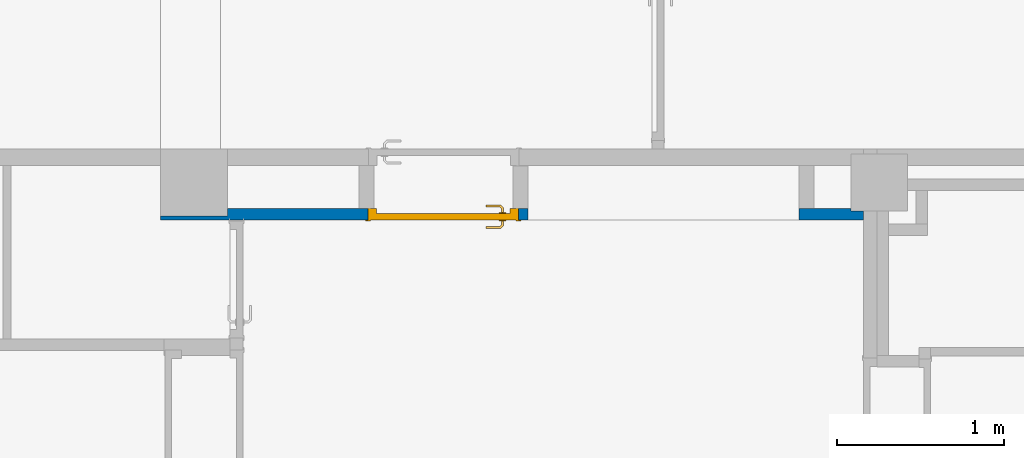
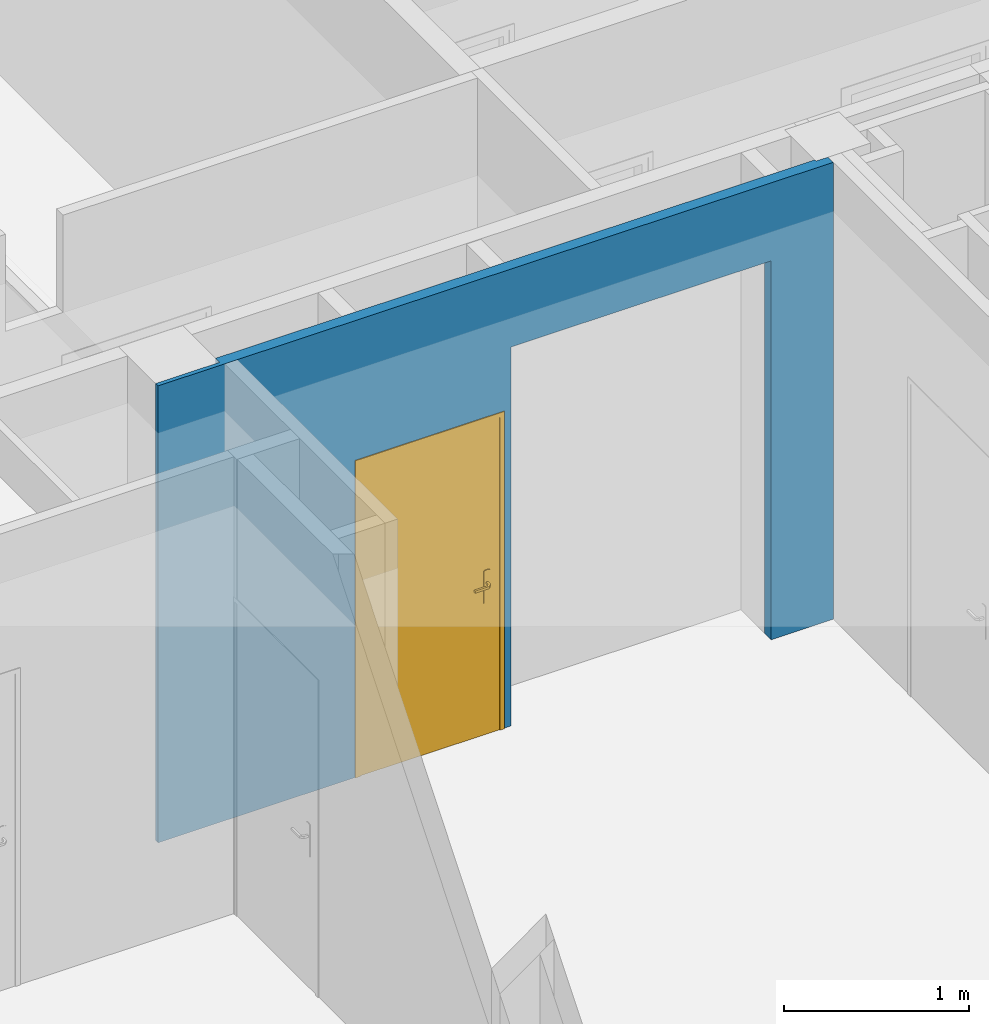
# One storey, part 62 of 97: 1 door, 1 wall, 1 opening.
"""IFC4 building model written with IfcOpenShell, lengths in metres."""

import ifcopenshell
import ifcopenshell.guid

model = None  # the IFC model being written
_history = None  # IfcOwnerHistory: only IFC2X3 demands one
_inside = {}  # id of a spatial element -> (the spatial element, [elements in it])
_under = {}  # id of a project, library or spatial element -> (it, [spatial elements below it])
_declared = {}  # id of a project -> (the project, [libraries it declares])
_typed = {}  # id of a type object -> (the type object, [elements of that type])
_made_of = {}  # id of a material, layer set ... -> (it, [elements and type objects made of it])


def new_model(schema):
    """Start an empty IFC model of exactly this schema.

    Asked for "IFC4X3", IfcOpenShell would pick the latest addendum, in which some entities
    have other attributes; the version numbers below select the first issue.
    IFC2X3 requires an IfcOwnerHistory on every rooted entity: one is made here for all.
    """
    global model, _history
    if schema == "IFC4X3":
        model = ifcopenshell.file(schema_version=(4, 3, 0, 0))
    else:
        model = ifcopenshell.file(schema=schema)
    _inside.clear()
    _under.clear()
    _declared.clear()
    _typed.clear()
    _made_of.clear()
    _history = None
    if model.schema == "IFC2X3":
        org = make("IfcOrganization", Name="unknown")
        user = make(
            "IfcPersonAndOrganization",
            ThePerson=make("IfcPerson", FamilyName="unknown"),
            TheOrganization=org,
        )
        app = make(
            "IfcApplication",
            ApplicationDeveloper=org,
            Version="unknown",
            ApplicationFullName="unknown",
            ApplicationIdentifier="unknown",
        )
        _history = make(
            "IfcOwnerHistory",
            OwningUser=user,
            OwningApplication=app,
            ChangeAction="ADDED",
            CreationDate=0,
        )
    return model


def make(cls, **values):
    """One entity of the class cls with the attributes given. An attribute that is None is left unset."""
    return model.create_entity(
        cls, **{name: value for name, value in values.items() if value is not None}
    )


def entity(cls, *values):
    """Any entity or typed value of the class cls, its attributes in the order of the schema. None: left unset."""
    e = model.create_entity(cls)
    for i, value in enumerate(values):
        if value is not None:
            e[i] = value
    return e


def rooted(cls, **values):
    """An entity with a GlobalId (a new one), such as an element, a storey or a relation."""
    return make(cls, GlobalId=ifcopenshell.guid.new(), OwnerHistory=_history, **values)


def si_unit(unit_type, name, prefix=None):
    """IfcSIUnit, for example si_unit("LENGTHUNIT", "METRE", prefix="MILLI")."""
    return make("IfcSIUnit", UnitType=unit_type, Prefix=prefix, Name=name)


def converted_unit(unit_type, name, factor, base, dimensions=None, offset=None):
    """IfcConversionBasedUnit, such as the inch: factor (a typed value) times the base unit."""
    return make(
        "IfcConversionBasedUnit"
        if offset is None
        else "IfcConversionBasedUnitWithOffset",
        ConversionOffset=offset,
        Dimensions=None
        if dimensions is None
        else entity("IfcDimensionalExponents", *dimensions),
        UnitType=unit_type,
        Name=name,
        ConversionFactor=make(
            "IfcMeasureWithUnit", ValueComponent=factor, UnitComponent=base
        ),
    )


def derived_unit(unit_type, elements):
    """IfcDerivedUnit: a product of units, each with its exponent."""
    return make(
        "IfcDerivedUnit",
        Elements=[
            make("IfcDerivedUnitElement", Unit=unit, Exponent=power)
            for unit, power in elements
        ],
        UnitType=unit_type,
    )


def assignment(units):
    """IfcUnitAssignment: the units of a project."""
    return None if units is None else make("IfcUnitAssignment", Units=units)


def point(xyz):
    """IfcCartesianPoint."""
    return None if xyz is None else make("IfcCartesianPoint", Coordinates=xyz)


def direction(xyz):
    """IfcDirection."""
    return None if xyz is None else make("IfcDirection", DirectionRatios=xyz)


def frame(location, z_axis=None, x_axis=None):
    """IfcAxis2Placement3D, a coordinate frame: its origin and axes. An axis left out is left unset."""
    return make(
        "IfcAxis2Placement3D",
        Location=point(location),
        Axis=direction(z_axis),
        RefDirection=direction(x_axis),
    )


def origin():
    """The frame at (0, 0, 0) with its axes left unset."""
    return frame((0.0, 0.0, 0.0))


def place(relative_to, where):
    """IfcLocalPlacement: puts the frame where relative to a parent placement (None: the world)."""
    return make(
        "IfcLocalPlacement", PlacementRelTo=relative_to, RelativePlacement=where
    )


def context(
    kind, dimensions, precision=None, world=None, true_north=None, identifier=None
):
    """IfcGeometricRepresentationContext, for example the 3D "Model" context."""
    return make(
        "IfcGeometricRepresentationContext",
        ContextIdentifier=identifier,
        ContextType=kind,
        CoordinateSpaceDimension=dimensions,
        Precision=precision,
        WorldCoordinateSystem=world,
        TrueNorth=true_north,
    )


def subcontext(parent, identifier, kind, view, scale=None):
    """IfcGeometricRepresentationSubContext, for example "Body" below "Model"."""
    return make(
        "IfcGeometricRepresentationSubContext",
        ContextIdentifier=identifier,
        ContextType=kind,
        ParentContext=parent,
        TargetScale=scale,
        TargetView=view,
    )


def project(units=None, contexts=None):
    """IfcProject with its units and contexts."""
    return rooted(
        "IfcProject",
        Name="project",
        RepresentationContexts=contexts,
        UnitsInContext=assignment(units),
    )


def spatial(cls, under=None, at=None, **own):
    """A site, building, storey or space (cls), placed at a placement, below another one or the project."""
    s = rooted(cls, ObjectPlacement=at, **own)
    if under is not None:
        _under.setdefault(under.id(), (under, []))[1].append(s)
    return s


def point_list(points):
    """IfcCartesianPointList2D or 3D."""
    cls = (
        "IfcCartesianPointList2D" if len(points[0]) == 2 else "IfcCartesianPointList3D"
    )
    return make(cls, CoordList=points)


def indexed_curve(points, segments=None, self_intersect=None):
    """IfcIndexedPolyCurve: lines and arcs through numbered points (the first is 1)."""
    return make(
        "IfcIndexedPolyCurve",
        Points=point_list(points),
        Segments=segments,
        SelfIntersect=self_intersect,
    )


def outline(outer, holes=None, kind="AREA"):
    """IfcArbitraryClosedProfileDef: a profile drawn as a closed curve; with holes, ...WithVoids."""
    if holes is None:
        return make("IfcArbitraryClosedProfileDef", ProfileType=kind, OuterCurve=outer)
    return make(
        "IfcArbitraryProfileDefWithVoids",
        ProfileType=kind,
        OuterCurve=outer,
        InnerCurves=holes,
    )


def extrude(swept, where, along, depth):
    """IfcExtrudedAreaSolid: the profile swept, set in the frame where, extruded along a direction by depth."""
    return make(
        "IfcExtrudedAreaSolid",
        SweptArea=swept,
        Position=where,
        ExtrudedDirection=direction(along),
        Depth=depth,
    )


def polygons(points, faces, closed=None, point_numbers=None):
    """IfcPolygonalFaceSet: a face is its outer loop, then its inner loops; points numbered from 1."""
    made = []
    for loops in faces:
        if len(loops) == 1:
            made.append(make("IfcIndexedPolygonalFace", CoordIndex=loops[0]))
        else:
            made.append(
                make(
                    "IfcIndexedPolygonalFaceWithVoids",
                    CoordIndex=loops[0],
                    InnerCoordIndices=loops[1:],
                )
            )
    return make(
        "IfcPolygonalFaceSet",
        Coordinates=point_list(points),
        Closed=closed,
        Faces=made,
        PnIndex=point_numbers,
    )


def shape(context_of_items, identifier, shape_type, items):
    """IfcShapeRepresentation: the items that make up one representation, for example the "Body"."""
    return make(
        "IfcShapeRepresentation",
        ContextOfItems=context_of_items,
        RepresentationIdentifier=identifier,
        RepresentationType=shape_type,
        Items=items,
    )


def source(mapping_origin, context_of_items, identifier, shape_type, items):
    """IfcRepresentationMap: a shape defined once, which mapped items show again and again."""
    return make(
        "IfcRepresentationMap",
        MappingOrigin=mapping_origin,
        MappedRepresentation=shape(context_of_items, identifier, shape_type, items),
    )


def transform(
    local_origin,
    x_axis=None,
    y_axis=None,
    z_axis=None,
    scale=None,
    scale2=None,
    scale3=None,
    uniform=True,
):
    """IfcCartesianTransformationOperator3D, or its non-uniform kind. x_axis, y_axis, z_axis: its Axis1, 2, 3."""
    if uniform:
        return make(
            "IfcCartesianTransformationOperator3D",
            Axis1=direction(x_axis),
            Axis2=direction(y_axis),
            LocalOrigin=point(local_origin),
            Scale=scale,
            Axis3=direction(z_axis),
        )
    return make(
        "IfcCartesianTransformationOperator3DnonUniform",
        Axis1=direction(x_axis),
        Axis2=direction(y_axis),
        LocalOrigin=point(local_origin),
        Scale=scale,
        Axis3=direction(z_axis),
        Scale2=scale2,
        Scale3=scale3,
    )


def mapped(mapping_source, mapping_target):
    """IfcMappedItem: shows the shape of a source again, moved by a transform."""
    return make(
        "IfcMappedItem", MappingSource=mapping_source, MappingTarget=mapping_target
    )


def material(Name=None, Category=None):
    """IfcMaterial."""
    return make("IfcMaterial", Name=Name, Category=Category)


def material_list(materials):
    """IfcMaterialList."""
    return make("IfcMaterialList", Materials=materials)


def layer(
    of_material, thickness, ventilated=None, Name=None, Category=None, Priority=None
):
    """IfcMaterialLayer: one layer of a wall or slab, of a material (None: an air gap)."""
    return make(
        "IfcMaterialLayer",
        Material=of_material,
        LayerThickness=thickness,
        IsVentilated=ventilated,
        Name=Name,
        Category=Category,
        Priority=Priority,
    )


def layer_set(layers, Name=None):
    """IfcMaterialLayerSet."""
    return make("IfcMaterialLayerSet", MaterialLayers=layers, LayerSetName=Name)


def constituent(of_material, Name=None, Category=None, fraction=None):
    """IfcMaterialConstituent: one of the materials an element consists of."""
    return make(
        "IfcMaterialConstituent",
        Name=Name,
        Material=of_material,
        Fraction=fraction,
        Category=Category,
    )


def constituent_set(constituents=None, Name=None):
    """IfcMaterialConstituentSet."""
    return make(
        "IfcMaterialConstituentSet", Name=Name, MaterialConstituents=constituents
    )


def made_of(thing, what):
    """Note that an element or type object is made of a material, layer set ...; save() writes the relation."""
    if what is not None:
        _made_of.setdefault(what.id(), (what, []))[1].append(thing)
    return thing


def type_object(cls, material=None, **own):
    """A type object (cls), such as IfcWallType, which elements share."""
    return made_of(rooted(cls, **own), material)


def type_shapes(of_type, sources):
    """Give a type object the sources (RepresentationMaps) that its elements show as mapped items."""
    of_type.RepresentationMaps = sources


def element(
    cls,
    number,
    at=None,
    inside=None,
    cuts=None,
    type_object=None,
    material=None,
    context=None,
    identifier="Body",
    shape_type=None,
    held_by="IfcProductDefinitionShape",
    body=None,
    shapes=None,
    **own,
):
    """One element of the class cls, such as IfcWall. Its Tag is "e" and its number.

    at: its placement. inside: the storey or other place that contains it. cuts: it is an
    opening in that element (IfcRelVoidsElement). A single representation is given by context,
    identifier, shape_type and body (its items); several are given by shapes. held_by: the class
    of the entity that holds the representations. save() writes the other relations.
    """
    e = rooted(cls, Tag="e%d" % number, ObjectPlacement=at, **own)
    if body is not None:
        shapes = [shape(context, identifier, shape_type, body)]
    if shapes is not None:
        e.Representation = make(held_by, Representations=shapes)
    if inside is not None:
        _inside.setdefault(inside.id(), (inside, []))[1].append(e)
    if cuts is not None:
        rooted(
            "IfcRelVoidsElement", RelatingBuildingElement=cuts, RelatedOpeningElement=e
        )
    if type_object is not None:
        _typed.setdefault(type_object.id(), (type_object, []))[1].append(e)
    return made_of(e, material)


def fill(opening, filler):
    """IfcRelFillsElement: the door or window that sits in an opening."""
    return rooted(
        "IfcRelFillsElement",
        RelatingOpeningElement=opening,
        RelatedBuildingElement=filler,
    )


def aggregate(whole, parts):
    """IfcRelAggregates: a whole, such as a stair, and the parts it consists of."""
    return rooted("IfcRelAggregates", RelatingObject=whole, RelatedObjects=parts)


def save(model, path):
    """Write the relations noted so far, then the file.

    IfcRelAggregates (storeys below a building ...), IfcRelContainedInSpatialStructure (elements
    in a storey), IfcRelDefinesByType, IfcRelAssociatesMaterial and IfcRelDeclares: one each for
    every whole, place, type object, material and project.
    """
    for whole, parts in _under.values():
        aggregate(whole, parts)
    for where, things in _inside.values():
        rooted(
            "IfcRelContainedInSpatialStructure",
            RelatedElements=things,
            RelatingStructure=where,
        )
    for kind, things in _typed.values():
        rooted("IfcRelDefinesByType", RelatedObjects=things, RelatingType=kind)
    for what, things in _made_of.values():
        rooted("IfcRelAssociatesMaterial", RelatedObjects=things, RelatingMaterial=what)
    for by, libraries in _declared.values():
        rooted("IfcRelDeclares", RelatingContext=by, RelatedDefinitions=libraries)
    model.write(path)


model = new_model("IFC4")

# Units and contexts
model_context = context("Model", 3, precision=1e-05, world=origin(), true_north=direction((6.12303176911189e-17, 1.0)))
body_context = subcontext(model_context, "Body", "Model", "MODEL_VIEW")
ifc_project = project(units=[si_unit("LENGTHUNIT", "METRE"), si_unit("AREAUNIT", "SQUARE_METRE"), si_unit("VOLUMEUNIT", "CUBIC_METRE"), converted_unit("PLANEANGLEUNIT", "DEGREE", entity("IfcRatioMeasure", 0.0174532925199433), si_unit("PLANEANGLEUNIT", "RADIAN"), dimensions=[0, 0, 0, 0, 0, 0, 0]), si_unit("MASSUNIT", "GRAM", prefix="KILO"), derived_unit("MASSDENSITYUNIT", [(si_unit("MASSUNIT", "GRAM", prefix="KILO"), 1), (si_unit("LENGTHUNIT", "METRE"), -3)]), derived_unit("MOMENTOFINERTIAUNIT", [(si_unit("LENGTHUNIT", "METRE"), 4)]), si_unit("TIMEUNIT", "SECOND"), si_unit("FREQUENCYUNIT", "HERTZ"), si_unit("THERMODYNAMICTEMPERATUREUNIT", "DEGREE_CELSIUS"), derived_unit("THERMALTRANSMITTANCEUNIT", [(si_unit("MASSUNIT", "GRAM", prefix="KILO"), 1), (si_unit("THERMODYNAMICTEMPERATUREUNIT", "KELVIN"), -1), (si_unit("TIMEUNIT", "SECOND"), -3)]), derived_unit("VOLUMETRICFLOWRATEUNIT", [(si_unit("LENGTHUNIT", "METRE"), 3), (si_unit("TIMEUNIT", "SECOND"), -1)]), si_unit("ELECTRICCURRENTUNIT", "AMPERE"), si_unit("ELECTRICVOLTAGEUNIT", "VOLT"), si_unit("POWERUNIT", "WATT"), si_unit("FORCEUNIT", "NEWTON", prefix="KILO"), si_unit("ILLUMINANCEUNIT", "LUX"), si_unit("LUMINOUSFLUXUNIT", "LUMEN"), si_unit("LUMINOUSINTENSITYUNIT", "CANDELA"), derived_unit("USERDEFINED", [(si_unit("MASSUNIT", "GRAM", prefix="KILO"), -1), (si_unit("LENGTHUNIT", "METRE"), -2), (si_unit("TIMEUNIT", "SECOND"), 3), (si_unit("LUMINOUSFLUXUNIT", "LUMEN"), 1)]), derived_unit("LINEARVELOCITYUNIT", [(si_unit("LENGTHUNIT", "METRE"), 1), (si_unit("TIMEUNIT", "SECOND"), -1)]), si_unit("PRESSUREUNIT", "PASCAL"), derived_unit("USERDEFINED", [(si_unit("LENGTHUNIT", "METRE"), -2), (si_unit("MASSUNIT", "GRAM", prefix="KILO"), 1), (si_unit("TIMEUNIT", "SECOND"), -2)]), derived_unit("LINEARFORCEUNIT", [(si_unit("MASSUNIT", "GRAM", prefix="KILO"), 1), (si_unit("LENGTHUNIT", "METRE"), 1), (si_unit("TIMEUNIT", "SECOND"), -2), (si_unit("LENGTHUNIT", "METRE"), -1)]), derived_unit("PLANARFORCEUNIT", [(si_unit("MASSUNIT", "GRAM", prefix="KILO"), 1), (si_unit("LENGTHUNIT", "METRE"), 1), (si_unit("TIMEUNIT", "SECOND"), -2), (si_unit("LENGTHUNIT", "METRE"), -2)])], contexts=[model_context])

# Site, building, storey
site_placement = place(None, origin())
site = spatial("IfcSite", under=ifc_project, at=site_placement, Name="Default", CompositionType="ELEMENT")
building_placement = place(site_placement, origin())
building = spatial("IfcBuilding", under=site, at=building_placement, Name="HOTEL CONSULAIRE BOULOGNE SUR MER", CompositionType="ELEMENT")
storey_placement = place(building_placement, frame((0.0, 0.0, 3.62152697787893)))
storey = spatial("IfcBuildingStorey", under=building, at=storey_placement, Name="Niveau 1", CompositionType="ELEMENT", Elevation=3.62152697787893)

# Wall, opening, door
ifc_material_1 = material(Name="Mur par défaut", Category="Divers")
ifc_layer = layer(ifc_material_1, 0.07, Name="Mur par défaut", Category="Divers")
ifc_layer_set = layer_set([ifc_layer], Name="Mur de base:Int. Plâtre 70 mm")
wall_type = type_object("IfcWallType", Name="Mur de base:Int. Plâtre 70 mm", PredefinedType="NOTDEFINED", material=ifc_layer_set)
wall_placement = place(storey_placement, frame((-1.32414453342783, -24.207040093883, 0.0), z_axis=(0.0, 0.0, 1.0), x_axis=(-1.0, 0.0, 0.0)))
wall = element("IfcWall", 1, at=wall_placement, inside=storey, type_object=wall_type, material=ifc_layer_set, Name="Mur de base:Int. Plâtre 70 mm", ObjectType="Mur de base:Int. Plâtre 70 mm", PredefinedType="NOTDEFINED", context=body_context, shape_type="Tessellation", body=[
    polygons([(2.065542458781, -0.0350000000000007, 5.41433564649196e-16), (2.00933276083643, -0.0350000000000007, 5.41433564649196e-16), (2.00933276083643, 0.0350000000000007, 5.41433564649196e-16), (2.065542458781, 0.0350000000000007, 5.41433564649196e-16), (2.965542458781, 0.0350000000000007, 5.41433564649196e-16), (3.71362864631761, 0.035000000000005, 5.41433564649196e-16), (3.79362864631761, 0.035000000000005, 5.41433564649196e-16), (4.2083841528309, 0.0350000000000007, 5.41433564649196e-16), (4.2083841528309, 0.0088697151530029, 5.41433564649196e-16), (3.8083841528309, 0.0088697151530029, 5.41433564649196e-16), (3.8083841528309, -0.0349999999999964, 5.41433564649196e-16), (3.02175215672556, -0.0349999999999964, 5.41433564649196e-16), (2.965542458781, -0.0350000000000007, 5.41433564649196e-16), (2.965542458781, -0.0350000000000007, 2.075), (3.8083841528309, -0.0350000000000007, 3.0102145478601), (3.02175215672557, -0.0349999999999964, 3.0102145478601), (2.93175215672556, -0.0350000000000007, 3.0102145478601), (2.09933276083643, -0.0350000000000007, 3.0102145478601), (2.00933276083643, -0.0350000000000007, 3.0102145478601), (0.387082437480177, -0.0350000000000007, 3.0102145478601), (0.297082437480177, -0.0350000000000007, 3.0102145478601), (0.0746786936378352, -0.0350000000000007, 3.0102145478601), (0.0746786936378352, -0.0350000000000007, 5.41433564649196e-16), (0.297082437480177, -0.0350000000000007, 5.41433564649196e-16), (0.387082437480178, -0.0350000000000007, 5.41433564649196e-16), (0.387082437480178, -0.0350000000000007, 2.49655241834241), (2.00933276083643, -0.0350000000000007, 2.49655241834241), (2.065542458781, -0.0350000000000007, 2.075), (-2.10464767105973e-16, 0.0350000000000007, 3.0102145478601), (3.71362864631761, 0.0350000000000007, 3.0102145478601), (3.79362864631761, 0.0350000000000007, 3.0102145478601), (4.2083841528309, 0.0350000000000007, 3.0102145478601), (2.965542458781, 0.0350000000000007, 2.075), (2.065542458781, 0.0350000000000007, 2.075), (2.00933276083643, 0.0350000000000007, 2.49655241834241), (0.387082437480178, 0.0350000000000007, 2.49655241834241), (0.387082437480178, 0.0350000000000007, 5.41433564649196e-16), (-2.10464767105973e-16, 0.0350000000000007, 5.41433564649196e-16), (-1.37826070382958e-17, -0.0211302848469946, 5.41433564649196e-16), (-1.37826070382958e-17, -0.0211302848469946, 3.0102145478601), (4.2083841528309, 0.0088697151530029, 3.0102145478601), (0.0746786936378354, -0.0211302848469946, 3.0102145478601), (3.8083841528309, 0.0088697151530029, 3.0102145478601), (0.0746786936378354, -0.0211302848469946, 5.41433564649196e-16)], [[[1, 2, 3, 4]], [[12, 13, 5, 6, 7, 8, 9, 10, 11]], [[34, 33, 14, 28]], [[27, 26, 36, 35]], [[44, 39, 38, 37, 25, 24, 23]], [[26, 27, 2, 1, 28, 14, 13, 12, 11, 15, 16, 17, 18, 19, 20, 21, 22, 23, 24, 25]], [[44, 42, 40, 39]], [[9, 41, 43, 10]], [[33, 34, 4, 3, 35, 36, 37, 38, 29, 30, 31, 32, 8, 7, 6, 5]], [[38, 39, 40, 29]], [[33, 5, 13, 14]], [[35, 3, 2, 27]], [[44, 23, 22, 42]], [[4, 34, 28, 1]], [[41, 9, 8, 32]], [[26, 25, 37, 36]], [[11, 10, 43, 15]], [[30, 29, 40, 42, 22, 21, 20, 19, 18, 17, 16, 15, 43, 41, 32, 31]]], closed=True),
])
opening_placement = place(wall_placement, frame((2.065542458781, -0.0349999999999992, 0.0)))
opening = element("IfcOpeningElement", 2, at=opening_placement, cuts=wall, Name="Int. Simple:PP (0.83m x 2.04m):1", ObjectType="Opening", PredefinedType="OPENING", context=body_context, shape_type="SweptSolid", body=[
    extrude(outline(indexed_curve([(0.0, 0.9), (0.0, 0.0), (2.075, 0.0), (2.075, 0.9), (0.0, 0.9)], self_intersect=False)), frame((0.0, 0.0, 0.0), z_axis=(0.0, 1.0, 0.0), x_axis=(0.0, 0.0, 1.0)), (0.0, 0.0, 1.0), 0.07),
])
ifc_material_2 = material(Name="Finition Peinture - Blanc satiné", Category="Peinture")
ifc_constituent_1 = constituent(ifc_material_2, Name="Finition Peinture - Blanc satiné", Category="Matériaux")
ifc_material_3 = material(Name="Bois - Panneau de porte", Category="Bois")
ifc_constituent_2 = constituent(ifc_material_3, Name="Bois - Panneau de porte", Category="Matériaux")
ifc_material_4 = material(Name="Bois - Cadre de porte", Category="Bois")
ifc_constituent_3 = constituent(ifc_material_4, Name="Bois - Cadre de porte", Category="Matériaux")
ifc_constituent_set = constituent_set(constituents=[ifc_constituent_1, ifc_constituent_2, ifc_constituent_3], Name="MaterialConstituentSet")
ifc_material_list = material_list([ifc_material_4, ifc_material_4, ifc_material_3, ifc_material_2])
door_type = type_object("IfcDoorType", Name="Int. Simple:PP (0.83m x 2.04m)", OperationType="NOTDEFINED", PredefinedType="DOOR", material=ifc_material_list)
shared_shape = source(origin(), body_context, "Body", "Tessellation", [
    polygons([(0.895000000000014, -0.00500000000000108, 0.870000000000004), (0.895000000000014, -0.00500000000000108, 1.08), (0.885352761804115, -0.00500000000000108, 1.08399601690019), (0.875000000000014, -0.00500000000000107, 1.08535898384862), (0.864647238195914, -0.00500000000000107, 1.08399601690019), (0.855000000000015, -0.00500000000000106, 1.08), (0.855000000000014, -0.00500000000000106, 0.870000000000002), (0.864647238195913, -0.00500000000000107, 0.866003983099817), (0.875000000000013, -0.00500000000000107, 0.86464101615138), (0.885352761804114, -0.00500000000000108, 0.866003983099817), (0.895000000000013, -1.07440722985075e-15, 0.870000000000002), (0.885352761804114, -1.07017728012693e-15, 0.866003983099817), (0.875000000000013, -1.06594733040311e-15, 0.86464101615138), (0.864647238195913, -1.06171738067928e-15, 0.866003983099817), (0.855000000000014, -1.05748743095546e-15, 0.870000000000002), (0.855000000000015, -1.05748743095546e-15, 1.08), (0.864647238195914, -1.06171738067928e-15, 1.08399601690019), (0.875000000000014, -1.06594733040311e-15, 1.08535898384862), (0.885352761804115, -1.07017728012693e-15, 1.08399601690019), (0.895000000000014, -1.07440722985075e-15, 1.08)], [[[1, 2, 3, 4, 5, 6, 7, 8, 9, 10]], [[20, 11, 12, 13, 14, 15, 16, 17, 18, 19]], [[10, 12, 11, 1]], [[9, 13, 12, 10]], [[8, 14, 13, 9]], [[8, 7, 15, 14]], [[15, 7, 6, 16]], [[5, 17, 16, 6]], [[4, 18, 17, 5]], [[3, 19, 18, 4]], [[3, 2, 20, 19]], [[11, 20, 2, 1]]], closed=True),
    polygons([(0.855000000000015, 0.0399999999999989, 1.08), (0.855000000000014, 0.0399999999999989, 0.870000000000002), (0.864647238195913, 0.0399999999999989, 0.866003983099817), (0.875000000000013, 0.0399999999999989, 0.86464101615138), (0.885352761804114, 0.0399999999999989, 0.866003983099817), (0.895000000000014, 0.0399999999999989, 0.870000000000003), (0.895000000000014, 0.0399999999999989, 1.08), (0.885352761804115, 0.0399999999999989, 1.08399601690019), (0.875000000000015, 0.0399999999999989, 1.08535898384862), (0.864647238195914, 0.0399999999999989, 1.08399601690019), (0.855000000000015, 0.0449999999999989, 1.08), (0.864647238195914, 0.0449999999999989, 1.08399601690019), (0.875000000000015, 0.0449999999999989, 1.08535898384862), (0.885352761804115, 0.0449999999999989, 1.08399601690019), (0.895000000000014, 0.0449999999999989, 1.08), (0.895000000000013, 0.0449999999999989, 0.870000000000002), (0.885352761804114, 0.0449999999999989, 0.866003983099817), (0.875000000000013, 0.0449999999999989, 0.86464101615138), (0.864647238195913, 0.0449999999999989, 0.866003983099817), (0.855000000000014, 0.0449999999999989, 0.870000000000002)], [[[6, 7, 8, 9, 10, 1, 2, 3, 4, 5]], [[13, 14, 15, 16, 17, 18, 19, 20, 11, 12]], [[10, 12, 11, 1]], [[9, 13, 12, 10]], [[8, 14, 13, 9]], [[8, 7, 15, 14]], [[16, 15, 7, 6]], [[5, 17, 16, 6]], [[4, 18, 17, 5]], [[3, 19, 18, 4]], [[3, 2, 20, 19]], [[20, 2, 1, 11]]], closed=True),
    polygons([(0.881000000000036, -0.00500000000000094, 1.00699999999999), (0.881000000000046, -0.00500000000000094, 0.992999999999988), (0.877025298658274, -0.00500000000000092, 0.99221955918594), (0.872974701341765, -0.00500000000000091, 0.992219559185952), (0.868999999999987, -0.00500000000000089, 0.993000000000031), (0.868999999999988, -0.00500000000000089, 1.007), (0.872974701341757, -0.00500000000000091, 1.00778044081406), (0.877025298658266, -0.00500000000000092, 1.00778044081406), (0.868999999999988, -0.0276803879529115, 1.007), (0.872974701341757, -0.0293267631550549, 1.00778044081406), (0.877025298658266, -0.0310045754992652, 1.00778044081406), (0.881000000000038, -0.0326509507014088, 1.007), (0.868999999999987, -0.0276803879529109, 0.993000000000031), (0.881000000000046, -0.0326509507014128, 0.992999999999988), (0.877025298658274, -0.0310045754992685, 0.99221955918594), (0.872974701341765, -0.0293267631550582, 0.992219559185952), (0.85765222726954, -0.0390281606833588, 1.007), (0.859298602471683, -0.0430028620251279, 1.00778044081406), (0.860976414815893, -0.0470534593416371, 1.00778044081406), (0.862622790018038, -0.051028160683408, 1.007), (0.857652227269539, -0.0390281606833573, 0.993000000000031), (0.862622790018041, -0.0510281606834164, 0.992999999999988), (0.860976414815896, -0.0470534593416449, 0.99221955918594), (0.859298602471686, -0.0430028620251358, 0.992219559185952), (0.774981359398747, -0.0510281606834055, 1.007), (0.774981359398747, -0.0470534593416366, 1.00778044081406), (0.774981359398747, -0.0430028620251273, 1.00778044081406), (0.774981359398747, -0.0390281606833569, 1.00699999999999), (0.774981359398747, -0.0390281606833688, 0.993000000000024), (0.774981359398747, -0.0430028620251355, 0.992219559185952), (0.774981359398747, -0.0470534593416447, 0.99221955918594), (0.774981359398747, -0.0510281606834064, 0.992999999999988), (0.822692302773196, -0.051028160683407, 1.007), (0.81713998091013, -0.045028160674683, 1.0078786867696), (0.816316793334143, -0.039028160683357, 1.007), (0.822692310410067, -0.0510281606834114, 0.992999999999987), (0.817139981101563, -0.0450281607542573, 0.992121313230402), (0.816316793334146, -0.039028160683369, 0.993000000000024)], [[[7, 8, 1, 2, 3, 4, 5, 6]], [[17, 21, 38, 29, 28, 35]], [[1, 8, 11, 12]], [[8, 7, 10, 18, 19, 11]], [[7, 6, 9, 10]], [[13, 9, 6, 5]], [[25, 26, 27, 28, 29, 30, 31, 32]], [[4, 16, 13, 5]], [[4, 3, 15, 23, 24, 16]], [[2, 14, 15, 3]], [[12, 14, 2, 1]], [[12, 11, 19, 20]], [[10, 9, 17, 18]], [[21, 17, 9, 13]], [[13, 16, 24, 21]], [[15, 14, 22, 23]], [[20, 22, 14, 12]], [[34, 26, 33]], [[33, 26, 25]], [[33, 20, 19]], [[18, 35, 34]], [[35, 18, 17]], [[28, 27, 35]], [[34, 27, 26]], [[34, 35, 27]], [[34, 33, 19]], [[18, 34, 19]], [[37, 30, 38]], [[31, 37, 36]], [[24, 38, 21]], [[30, 29, 38]], [[31, 36, 32]], [[36, 23, 22]], [[37, 23, 36]], [[37, 24, 23]], [[37, 38, 24]], [[30, 37, 31]], [[22, 20, 33, 25, 32, 36]]], closed=True),
    polygons([(0.868999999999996, 0.0449999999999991, 0.993000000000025), (0.872974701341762, 0.0449999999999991, 0.992219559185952), (0.877025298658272, 0.044999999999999, 0.99221955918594), (0.881000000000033, 0.044999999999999, 0.992999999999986), (0.881000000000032, 0.044999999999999, 1.007), (0.877025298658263, 0.044999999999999, 1.00778044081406), (0.872974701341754, 0.0449999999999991, 1.00778044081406), (0.868999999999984, 0.0449999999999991, 1.007), (0.868999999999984, 0.067485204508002, 1.007), (0.868999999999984, 0.0674852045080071, 0.993000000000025), (0.881000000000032, 0.0724557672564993, 1.007), (0.877025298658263, 0.070809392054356, 1.00778044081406), (0.872974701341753, 0.0691315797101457, 1.00778044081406), (0.881000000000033, 0.0724557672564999, 0.992999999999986), (0.872974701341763, 0.0691315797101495, 0.992219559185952), (0.877025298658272, 0.0708093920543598, 0.99221955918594), (0.857514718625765, 0.0789704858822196, 1.007), (0.857514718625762, 0.0789704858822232, 0.993000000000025), (0.862485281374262, 0.0909704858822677, 1.007), (0.860838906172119, 0.0869957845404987, 1.00778044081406), (0.859161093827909, 0.0829451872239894, 1.00778044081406), (0.862485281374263, 0.0909704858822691, 0.992999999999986), (0.859161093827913, 0.0829451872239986, 0.992219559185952), (0.860838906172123, 0.0869957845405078, 0.99221955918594), (0.77495421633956, 0.0789704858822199, 0.993000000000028), (0.77495421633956, 0.0789704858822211, 1.007), (0.77495421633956, 0.0829451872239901, 1.00778044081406), (0.77495421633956, 0.0869957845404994, 1.00778044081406), (0.77495421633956, 0.0909704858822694, 1.007), (0.77495421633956, 0.0909704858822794, 0.992999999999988), (0.77495421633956, 0.086995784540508, 0.99221955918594), (0.77495421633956, 0.0829451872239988, 0.992219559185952), (0.822554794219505, 0.0909704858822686, 1.007), (0.817057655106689, 0.0849704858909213, 1.0078786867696), (0.816234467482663, 0.0789704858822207, 1.007), (0.822554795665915, 0.0909704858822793, 0.992999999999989), (0.817057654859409, 0.0849704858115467, 0.992121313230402), (0.816234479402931, 0.0789704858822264, 0.993000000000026)], [[[2, 3, 4, 5, 6, 7, 8, 1]], [[18, 17, 35, 26, 25, 38]], [[9, 10, 1, 8]], [[27, 28, 29, 30, 31, 32, 25, 26]], [[7, 13, 9, 8]], [[7, 6, 12, 20, 21, 13]], [[5, 11, 12, 6]], [[11, 5, 4, 14]], [[4, 3, 16, 14]], [[3, 2, 15, 23, 24, 16]], [[2, 1, 10, 15]], [[17, 18, 10, 9]], [[9, 13, 21, 17]], [[11, 19, 20, 12]], [[22, 19, 11, 14]], [[14, 16, 24, 22]], [[15, 10, 18, 23]], [[34, 27, 35]], [[28, 34, 33]], [[21, 35, 17]], [[27, 26, 35]], [[28, 33, 29]], [[33, 20, 19]], [[34, 20, 33]], [[34, 21, 20]], [[34, 35, 21]], [[27, 34, 28]], [[19, 22, 36, 30, 29, 33]], [[37, 31, 36]], [[36, 31, 30]], [[36, 22, 24]], [[23, 38, 37]], [[38, 23, 18]], [[25, 32, 38]], [[37, 32, 31]], [[37, 38, 32]], [[37, 36, 24]], [[23, 37, 24]]], closed=True),
    polygons([(0.935000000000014, 0.04, 2.04), (0.935000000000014, 0.04, 0.0), (0.105000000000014, 0.04, 0.0), (0.105000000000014, 0.04, 2.04), (0.935000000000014, 2.53796983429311e-17, 2.04), (0.105000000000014, 2.53796983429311e-17, 2.04), (0.105000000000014, 2.53796983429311e-17, 0.0), (0.935000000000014, 2.53796983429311e-17, 0.0)], [[[3, 4, 1, 2]], [[5, 6, 7, 8]], [[5, 1, 4, 6]], [[6, 4, 3, 7]], [[8, 7, 3, 2]], [[8, 2, 1, 5]]], closed=True),
    polygons([(0.970000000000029, -4.22994972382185e-18, 0.0), (0.935000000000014, -4.22994972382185e-18, 0.0), (0.935000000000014, 0.04, 0.0), (0.920000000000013, 0.04, 0.0), (0.920000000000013, 0.0699999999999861, 0.0), (0.970000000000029, 0.0699999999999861, 0.0), (0.970000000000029, 0.0699999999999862, 2.07500000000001), (0.970000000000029, -4.22994972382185e-18, 2.07500000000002), (0.920000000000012, 0.0699999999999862, 2.025), (0.120000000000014, 0.0699999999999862, 2.025), (0.120000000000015, 0.0699999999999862, -4.08259727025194e-24), (0.0699999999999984, 0.0699999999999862, 5.8808818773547e-24), (0.0699999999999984, 0.0699999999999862, 2.07500000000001), (0.920000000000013, 0.04, 2.025), (0.935000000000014, 0.04, 2.04), (0.105000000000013, 0.04, 2.04), (0.105000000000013, 0.04, -2.52000145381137e-24), (0.120000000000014, 0.04, 1.99209647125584e-25), (0.120000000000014, 0.04, 2.025), (0.935000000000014, -4.22994972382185e-18, 2.04), (0.0699999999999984, -4.22994972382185e-18, 2.07500000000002), (0.0699999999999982, -4.22994972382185e-18, -3.95490699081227e-25), (0.105000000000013, -4.22994972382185e-18, -1.26556696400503e-24), (0.105000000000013, -4.22994972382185e-18, 2.04)], [[[4, 5, 6, 1, 2, 3]], [[17, 23, 22, 12, 11, 18]], [[19, 10, 9, 14]], [[24, 16, 15, 20]], [[7, 8, 1, 6]], [[11, 10, 19, 18]], [[23, 17, 16, 24]], [[9, 10, 11, 12, 13, 7, 6, 5]], [[9, 5, 4, 14]], [[15, 3, 2, 20]], [[12, 22, 21, 13]], [[19, 14, 4, 3, 15, 16, 17, 18]], [[24, 20, 2, 1, 8, 21, 22, 23]], [[13, 21, 8, 7]]], closed=True),
    polygons([(0.955000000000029, 0.0699999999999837, 1.35358391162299e-16), (0.955000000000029, 0.0749999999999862, 1.35358391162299e-16), (0.985000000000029, 0.0749999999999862, 1.35358391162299e-16), (0.985000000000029, 0.0699999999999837, 1.35358391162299e-16), (0.985000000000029, 0.0699999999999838, 2.09000000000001), (0.0550000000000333, 0.0699999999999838, 2.09000000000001), (0.0550000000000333, 0.0699999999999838, -4.03399441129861e-24), (0.0850000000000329, 0.0699999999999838, 4.03399441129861e-24), (0.0850000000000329, 0.0699999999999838, 2.06000000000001), (0.955000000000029, 0.0699999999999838, 2.06000000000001), (0.985000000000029, 0.0749999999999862, 2.09000000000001), (0.955000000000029, 0.0749999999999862, 2.06000000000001), (0.0850000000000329, 0.0749999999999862, 2.06000000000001), (0.0850000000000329, 0.0749999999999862, 0.0), (0.0550000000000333, 0.0749999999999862, -4.03399441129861e-24), (0.0550000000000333, 0.0749999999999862, 2.09000000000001)], [[[2, 3, 4, 1]], [[7, 15, 14, 8]], [[13, 12, 10, 9]], [[9, 10, 1, 4, 5, 6, 7, 8]], [[11, 5, 4, 3]], [[8, 14, 13, 9]], [[12, 13, 14, 15, 16, 11, 3, 2]], [[10, 12, 2, 1]], [[15, 7, 6, 16]], [[16, 6, 5, 11]]], closed=True),
    polygons([(0.955000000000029, -0.005, 1.35358391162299e-16), (0.955000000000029, -8.33300095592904e-16, 1.35358391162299e-16), (0.985000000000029, -8.33300095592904e-16, 1.35358391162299e-16), (0.985000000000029, -0.005, 1.35358391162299e-16), (0.0850000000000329, -0.005, -1.35358391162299e-16), (0.0550000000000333, -0.005, -1.35358391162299e-16), (0.0550000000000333, -8.33300095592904e-16, -1.35358391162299e-16), (0.0850000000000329, -8.33300095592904e-16, -1.35358391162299e-16), (0.985000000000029, -0.005, 2.09000000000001), (0.0550000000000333, -0.005, 2.09000000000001), (0.0850000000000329, -0.005, 2.06000000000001), (0.955000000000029, -0.005, 2.06000000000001), (0.985000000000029, -8.33300095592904e-16, 2.09000000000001), (0.955000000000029, -8.33300095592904e-16, 2.06000000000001), (0.0850000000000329, -8.33300095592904e-16, 2.06000000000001), (0.0550000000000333, -8.33300095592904e-16, 2.09000000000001)], [[[2, 3, 4, 1]], [[6, 7, 8, 5]], [[15, 14, 12, 11]], [[11, 12, 1, 4, 9, 10, 6, 5]], [[9, 4, 3, 13]], [[5, 8, 15, 11]], [[14, 15, 8, 7, 16, 13, 3, 2]], [[12, 14, 2, 1]], [[6, 10, 16, 7]], [[10, 9, 13, 16]]], closed=True),
])
type_shapes(door_type, [shared_shape])
door_placement = place(opening_placement, frame((0.970000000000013, 0.0699999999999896, 0.0), z_axis=(0.0, 0.0, 1.0), x_axis=(-1.0, 0.0, 0.0)))
door = element("IfcDoor", 3, at=door_placement, inside=storey, type_object=door_type, material=ifc_constituent_set, Name="Int. Simple:PP (0.83m x 2.04m)", ObjectType="Int. Simple:PP (0.83m x 2.04m)", OperationType="NOTDEFINED", OverallHeight=2.075, OverallWidth=0.9, PredefinedType="DOOR", context=body_context, shape_type="MappedRepresentation", body=[
    mapped(shared_shape, transform((0.0, 0.0, 0.0), scale=1.0)),
])
fill(opening, door)

save(model, "model.ifc")
